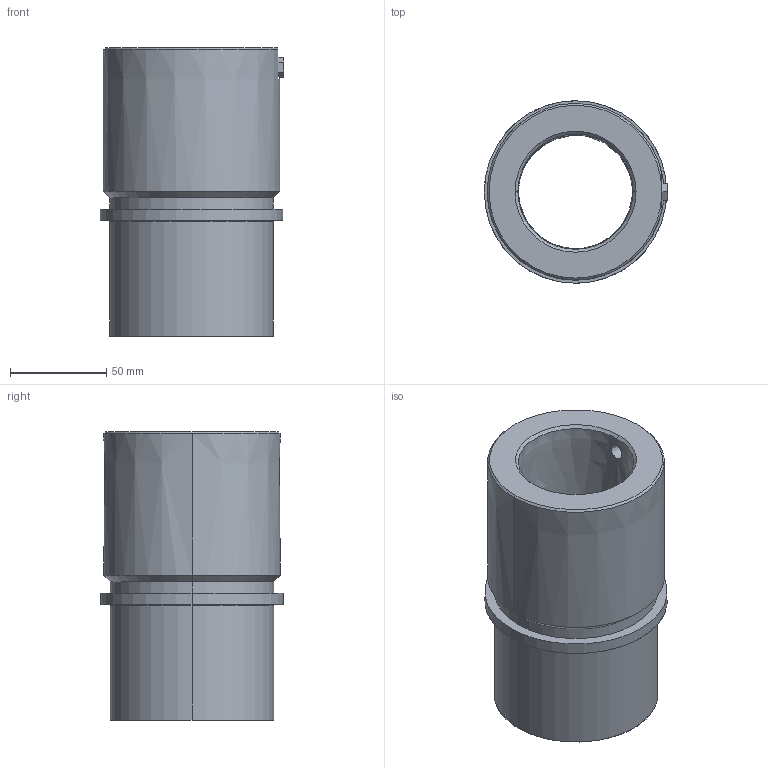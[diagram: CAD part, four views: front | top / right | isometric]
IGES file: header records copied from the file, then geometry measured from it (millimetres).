
Start section: START RECORD GO HERE.
Global section: file name: 742-60.igs; native system: DASSAULT SYSTEMES CATIA V5 R20 - www.3ds.com; preprocessor: CATIA Version 5 Release 20 ; author: Utente; organization: NB04-ASUS; date: 20210123.113900; units: millimetre
Bounding box: 95.5 x 95 x 150 mm (x, y, z)
Surface area: 80372.4 mm2 (no closed solid volume)
Topology: 0 solids, 0 shells, 38 faces, 178 edges, 178 vertices
Faces by surface type: revolution 24, plane 14
